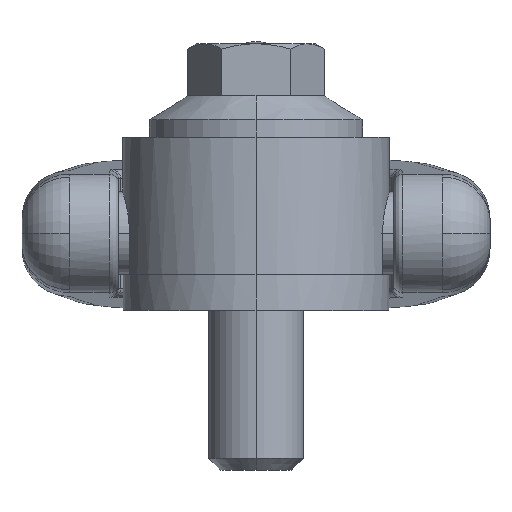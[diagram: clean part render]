
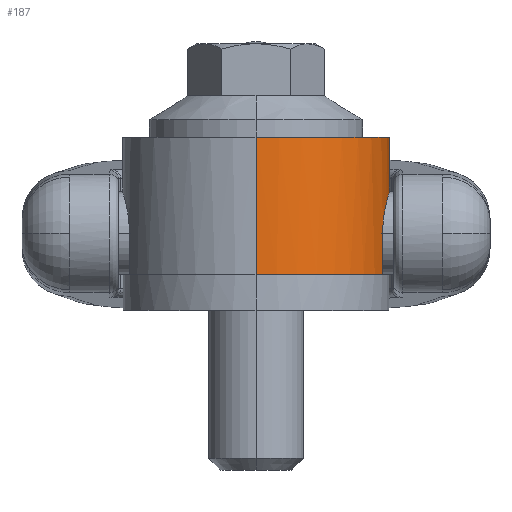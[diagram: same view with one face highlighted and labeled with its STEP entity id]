
A CAD part, top view. The second image highlights one B-rep face of the part: STEP entity #187.
In plain terms, the highlighted cylindrical face has radius 22.5 mm (diameter 45 mm), a partial arc.
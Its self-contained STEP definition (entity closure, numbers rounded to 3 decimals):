
#159 = VERTEX_POINT ( 'NONE', #1821 ) ;
#172 = ORIENTED_EDGE ( 'NONE', *, *, #174, .T. ) ;
#173 = VERTEX_POINT ( 'NONE', #1865 ) ;
#174 = EDGE_CURVE ( 'NONE', #176, #173, #1863, .T. ) ;
#176 = VERTEX_POINT ( 'NONE', #1884 ) ;
#177 = ORIENTED_EDGE ( 'NONE', *, *, #178, .T. ) ;
#178 = EDGE_CURVE ( 'NONE', #159, #176, #1883, .T. ) ;
#179 = ORIENTED_EDGE ( 'NONE', *, *, #181, .F. ) ;
#180 = EDGE_CURVE ( 'NONE', #182, #159, #1912, .T. ) ;
#181 = EDGE_CURVE ( 'NONE', #182, #2133, #1908, .T. ) ;
#182 = VERTEX_POINT ( 'NONE', #1903 ) ;
#183 = ORIENTED_EDGE ( 'NONE', *, *, #180, .T. ) ;
#187 = ADVANCED_FACE ( 'NONE', ( #1902 ), #1684, .T. ) ;
#890 = DIRECTION ( 'NONE',  ( 0., -1., 0. ) ) ;
#905 = DIRECTION ( 'NONE',  ( 0., 0., -1. ) ) ;
#1017 = ORIENTED_EDGE ( 'NONE', *, *, #1022, .F. ) ;
#1018 = VERTEX_POINT ( 'NONE', #3693 ) ;
#1022 = EDGE_CURVE ( 'NONE', #4158, #1018, #3681, .T. ) ;
#1036 = EDGE_CURVE ( 'NONE', #1018, #173, #3715, .T. ) ;
#1043 = ORIENTED_EDGE ( 'NONE', *, *, #1036, .F. ) ;
#1684 = CYLINDRICAL_SURFACE ( 'NONE', #1900, 22.5 ) ;
#1821 = CARTESIAN_POINT ( 'NONE',  ( 21.383, 13., 7. ) ) ;
#1863 = LINE ( 'NONE', #1893, #1892 ) ;
#1865 = CARTESIAN_POINT ( 'NONE',  ( 21.383, 6., -7. ) ) ;
#1866 = CARTESIAN_POINT ( 'NONE',  ( 22.288, 19.286, 3.113 ) ) ;
#1867 = CARTESIAN_POINT ( 'NONE',  ( 22.227, 19.071, 3.515 ) ) ;
#1868 = CARTESIAN_POINT ( 'NONE',  ( 22.093, 18.559, 4.279 ) ) ;
#1869 = CARTESIAN_POINT ( 'NONE',  ( 22.021, 18.27, 4.63 ) ) ;
#1870 = CARTESIAN_POINT ( 'NONE',  ( 21.913, 17.789, 5.11 ) ) ;
#1871 = CARTESIAN_POINT ( 'NONE',  ( 21.876, 17.621, 5.263 ) ) ;
#1872 = CARTESIAN_POINT ( 'NONE',  ( 21.804, 17.268, 5.553 ) ) ;
#1873 = CARTESIAN_POINT ( 'NONE',  ( 21.769, 17.082, 5.691 ) ) ;
#1874 = CARTESIAN_POINT ( 'NONE',  ( 21.667, 16.514, 6.072 ) ) ;
#1875 = CARTESIAN_POINT ( 'NONE',  ( 21.605, 16.113, 6.287 ) ) ;
#1876 = CARTESIAN_POINT ( 'NONE',  ( 21.526, 15.478, 6.551 ) ) ;
#1877 = CARTESIAN_POINT ( 'NONE',  ( 21.501, 15.26, 6.629 ) ) ;
#1878 = CARTESIAN_POINT ( 'NONE',  ( 21.459, 14.819, 6.764 ) ) ;
#1879 = CARTESIAN_POINT ( 'NONE',  ( 21.442, 14.596, 6.819 ) ) ;
#1880 = CARTESIAN_POINT ( 'NONE',  ( 21.399, 13.923, 6.954 ) ) ;
#1881 = CARTESIAN_POINT ( 'NONE',  ( 21.383, 13.465, 7. ) ) ;
#1882 = CARTESIAN_POINT ( 'NONE',  ( 21.383, 13., 7. ) ) ;
#1883 = B_SPLINE_CURVE_WITH_KNOTS ( 'NONE', 3,
 ( #1882, #1881, #1880, #1879, #1878, #1877, #1876, #1875, #1874, #1873, #1872, #1871, #1870, #1869, #1868, #1867, #1866, #1942, #1941, #1940, #1939, #1937, #1936, #1935, #1934, #1933, #1932, #1931, #1930, #1929, #1928, #1927, #1926, #1925, #1924, #1923, #1922, #1921, #1920, #1919, #1918, #1917, #1916, #1915, #1914, #1913 ),
 .UNSPECIFIED., .F., .F.,
 ( 4, 2, 2, 2, 2, 2, 2, 2, 2, 2, 2, 2, 2, 2, 2, 2, 2, 2, 2, 2, 2, 2, 4 ),
 ( 0., 0.001, 0.002, 0.003, 0.004, 0.005, 0.006, 0.007, 0.008, 0.009, 0.01, 0.011, 0.012, 0.014, 0.014, 0.015, 0.016, 0.017, 0.018, 0.019, 0.021, 0.021, 0.022 ),
 .UNSPECIFIED. ) ;
#1884 = CARTESIAN_POINT ( 'NONE',  ( 21.383, 13., -7. ) ) ;
#1891 = DIRECTION ( 'NONE',  ( 0., -1., 0. ) ) ;
#1892 = VECTOR ( 'NONE', #1891, 1000. ) ;
#1893 = CARTESIAN_POINT ( 'NONE',  ( 21.383, 45., -7. ) ) ;
#1900 = AXIS2_PLACEMENT_3D ( 'NONE', #1901, #890, #905 ) ;
#1901 = CARTESIAN_POINT ( 'NONE',  ( 0., 45., 0. ) ) ;
#1902 = FACE_OUTER_BOUND ( 'NONE', #5014, .T. ) ;
#1903 = CARTESIAN_POINT ( 'NONE',  ( 21.383, 6., 7. ) ) ;
#1904 = DIRECTION ( 'NONE',  ( 0., 0., -1. ) ) ;
#1905 = DIRECTION ( 'NONE',  ( 0., -1., 0. ) ) ;
#1906 = CARTESIAN_POINT ( 'NONE',  ( 0., 6., 0. ) ) ;
#1907 = AXIS2_PLACEMENT_3D ( 'NONE', #1906, #1905, #1904 ) ;
#1908 = CIRCLE ( 'NONE', #1907, 22.5 ) ;
#1909 = DIRECTION ( 'NONE',  ( 0., 1., 0. ) ) ;
#1910 = VECTOR ( 'NONE', #1909, 1000. ) ;
#1911 = CARTESIAN_POINT ( 'NONE',  ( 21.383, 45., 7. ) ) ;
#1912 = LINE ( 'NONE', #1911, #1910 ) ;
#1913 = CARTESIAN_POINT ( 'NONE',  ( 21.383, 13., -7. ) ) ;
#1914 = CARTESIAN_POINT ( 'NONE',  ( 21.383, 13.233, -7. ) ) ;
#1915 = CARTESIAN_POINT ( 'NONE',  ( 21.387, 13.465, -6.988 ) ) ;
#1916 = CARTESIAN_POINT ( 'NONE',  ( 21.402, 13.926, -6.942 ) ) ;
#1917 = CARTESIAN_POINT ( 'NONE',  ( 21.413, 14.157, -6.908 ) ) ;
#1918 = CARTESIAN_POINT ( 'NONE',  ( 21.457, 14.835, -6.771 ) ) ;
#1919 = CARTESIAN_POINT ( 'NONE',  ( 21.5, 15.271, -6.637 ) ) ;
#1920 = CARTESIAN_POINT ( 'NONE',  ( 21.605, 16.114, -6.286 ) ) ;
#1921 = CARTESIAN_POINT ( 'NONE',  ( 21.669, 16.523, -6.066 ) ) ;
#1922 = CARTESIAN_POINT ( 'NONE',  ( 21.804, 17.279, -5.559 ) ) ;
#1923 = CARTESIAN_POINT ( 'NONE',  ( 21.876, 17.629, -5.271 ) ) ;
#1924 = CARTESIAN_POINT ( 'NONE',  ( 21.986, 18.113, -4.787 ) ) ;
#1925 = CARTESIAN_POINT ( 'NONE',  ( 22.022, 18.267, -4.616 ) ) ;
#1926 = CARTESIAN_POINT ( 'NONE',  ( 22.093, 18.557, -4.263 ) ) ;
#1927 = CARTESIAN_POINT ( 'NONE',  ( 22.128, 18.692, -4.08 ) ) ;
#1928 = CARTESIAN_POINT ( 'NONE',  ( 22.194, 18.945, -3.703 ) ) ;
#1929 = CARTESIAN_POINT ( 'NONE',  ( 22.226, 19.062, -3.508 ) ) ;
#1930 = CARTESIAN_POINT ( 'NONE',  ( 22.286, 19.278, -3.105 ) ) ;
#1931 = CARTESIAN_POINT ( 'NONE',  ( 22.314, 19.377, -2.896 ) ) ;
#1932 = CARTESIAN_POINT ( 'NONE',  ( 22.391, 19.642, -2.258 ) ) ;
#1933 = CARTESIAN_POINT ( 'NONE',  ( 22.431, 19.775, -1.82 ) ) ;
#1934 = CARTESIAN_POINT ( 'NONE',  ( 22.486, 19.954, -0.92 ) ) ;
#1935 = CARTESIAN_POINT ( 'NONE',  ( 22.5, 20., -0.453 ) ) ;
#1936 = CARTESIAN_POINT ( 'NONE',  ( 22.5, 20., 0.467 ) ) ;
#1937 = CARTESIAN_POINT ( 'NONE',  ( 22.486, 19.954, 0.923 ) ) ;
#1939 = CARTESIAN_POINT ( 'NONE',  ( 22.444, 19.818, 1.601 ) ) ;
#1940 = CARTESIAN_POINT ( 'NONE',  ( 22.427, 19.761, 1.827 ) ) ;
#1941 = CARTESIAN_POINT ( 'NONE',  ( 22.387, 19.627, 2.267 ) ) ;
#1942 = CARTESIAN_POINT ( 'NONE',  ( 22.364, 19.549, 2.482 ) ) ;
#2133 = VERTEX_POINT ( 'NONE', #4946 ) ;
#2140 = VERTEX_POINT ( 'NONE', #4944 ) ;
#3678 = DIRECTION ( 'NONE',  ( 0., -1., 0. ) ) ;
#3679 = VECTOR ( 'NONE', #3678, 1000. ) ;
#3680 = CARTESIAN_POINT ( 'NONE',  ( 0., 45., -22.5 ) ) ;
#3681 = LINE ( 'NONE', #3680, #3679 ) ;
#3693 = CARTESIAN_POINT ( 'NONE',  ( 0., 6., -22.5 ) ) ;
#3711 = DIRECTION ( 'NONE',  ( 0., 0., -1. ) ) ;
#3712 = DIRECTION ( 'NONE',  ( 0., -1., 0. ) ) ;
#3713 = CARTESIAN_POINT ( 'NONE',  ( 0., 6., 0. ) ) ;
#3714 = AXIS2_PLACEMENT_3D ( 'NONE', #3713, #3712, #3711 ) ;
#3715 = CIRCLE ( 'NONE', #3714, 22.5 ) ;
#4112 = EDGE_CURVE ( 'NONE', #2140, #2133, #4970, .T. ) ;
#4152 = ORIENTED_EDGE ( 'NONE', *, *, #4112, .T. ) ;
#4158 = VERTEX_POINT ( 'NONE', #4966 ) ;
#4944 = CARTESIAN_POINT ( 'NONE',  ( 0., 29.2, 22.5 ) ) ;
#4946 = CARTESIAN_POINT ( 'NONE',  ( 0., 6., 22.5 ) ) ;
#4966 = CARTESIAN_POINT ( 'NONE',  ( 0., 29.2, -22.5 ) ) ;
#4967 = DIRECTION ( 'NONE',  ( 0., -1., 0. ) ) ;
#4968 = VECTOR ( 'NONE', #4967, 1000. ) ;
#4969 = CARTESIAN_POINT ( 'NONE',  ( 0., 45., 22.5 ) ) ;
#4970 = LINE ( 'NONE', #4969, #4968 ) ;
#5014 = EDGE_LOOP ( 'NONE', ( #5023, #4152, #179, #183, #177, #172, #1043, #1017 ) ) ;
#5023 = ORIENTED_EDGE ( 'NONE', *, *, #5027, .F. ) ;
#5027 = EDGE_CURVE ( 'NONE', #2140, #4158, #5053, .T. ) ;
#5049 = DIRECTION ( 'NONE',  ( 0., 0., 1. ) ) ;
#5050 = DIRECTION ( 'NONE',  ( 0., 1., 0. ) ) ;
#5051 = CARTESIAN_POINT ( 'NONE',  ( 0., 29.2, 0. ) ) ;
#5052 = AXIS2_PLACEMENT_3D ( 'NONE', #5051, #5050, #5049 ) ;
#5053 = CIRCLE ( 'NONE', #5052, 22.5 ) ;
